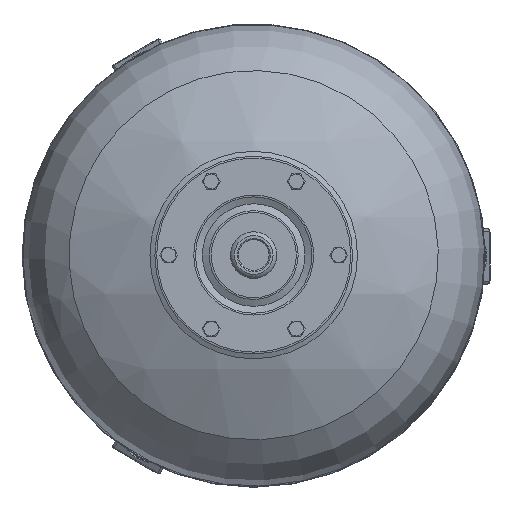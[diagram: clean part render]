
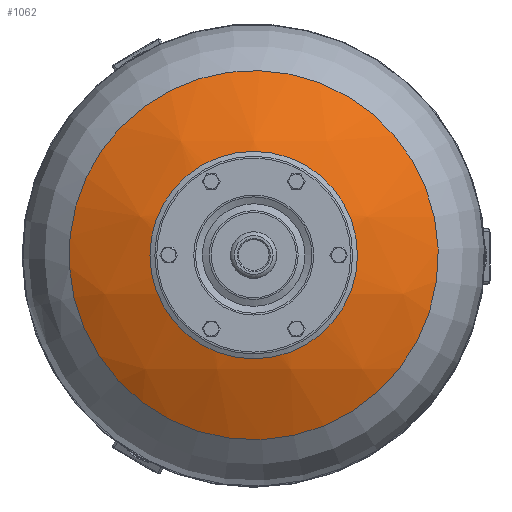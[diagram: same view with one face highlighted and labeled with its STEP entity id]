
A CAD part, top view. The second image highlights one B-rep face of the part: STEP entity #1062.
In plain terms, the highlighted spherical face has radius 468 mm.
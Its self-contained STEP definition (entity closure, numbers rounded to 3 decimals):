
#1062=ADVANCED_FACE('',(#4754,#4756),#4758,.T.);
#4754=FACE_BOUND('',#4755,.T.);
#4755=EDGE_LOOP('',(#8674,#8675));
#4756=FACE_BOUND('',#4757,.T.);
#4757=EDGE_LOOP('',(#8676,#8677));
#4758=SPHERICAL_SURFACE('',#4759,468.);
#4759=AXIS2_PLACEMENT_3D('',#4760,#4761,#4762);
#4760=CARTESIAN_POINT('',(0.,0.,-55.351));
#4761=DIRECTION('',(0.,-1.,0.));
#4762=DIRECTION('',(1.,0.,0.));
#8674=ORIENTED_EDGE('',*,*,#10526,.T.);
#8675=ORIENTED_EDGE('',*,*,#10527,.T.);
#8676=ORIENTED_EDGE('',*,*,#10528,.T.);
#8677=ORIENTED_EDGE('',*,*,#10529,.T.);
#10526=EDGE_CURVE('',#11791,#11792,#11793,.T.);
#10527=EDGE_CURVE('',#11792,#11791,#11794,.T.);
#10528=EDGE_CURVE('',#11795,#11796,#11797,.T.);
#10529=EDGE_CURVE('',#11796,#11795,#11798,.T.);
#11791=VERTEX_POINT('',#15808);
#11792=VERTEX_POINT('',#15809);
#11793=CIRCLE('',#15810,234.);
#11794=CIRCLE('',#15814,234.);
#11795=VERTEX_POINT('',#15818);
#11796=VERTEX_POINT('',#15819);
#11797=TRIMMED_CURVE('',#15820,(PARAMETER_VALUE(0.)),(PARAMETER_VALUE(3.142)),
.T.,.PARAMETER.);
#11798=TRIMMED_CURVE('',#15821,(PARAMETER_VALUE(3.142)),(PARAMETER_VALUE(
6.283)),.T.,.PARAMETER.);
#15808=CARTESIAN_POINT('',(-227.834,-53.364,349.949));
#15809=CARTESIAN_POINT('',(229.016,48.041,349.949));
#15810=AXIS2_PLACEMENT_3D('',#15811,#15812,#15813);
#15811=CARTESIAN_POINT('',(0.,0.,349.949));
#15812=DIRECTION('',(0.,0.,1.));
#15813=DIRECTION('',(-0.974,-0.228,0.));
#15814=AXIS2_PLACEMENT_3D('',#15815,#15816,#15817);
#15815=CARTESIAN_POINT('',(0.,0.,349.949));
#15816=DIRECTION('',(0.,0.,1.));
#15817=DIRECTION('',(0.979,0.205,0.));
#15818=CARTESIAN_POINT('',(-99.755,0.,401.894));
#15819=CARTESIAN_POINT('',(99.755,0.,401.894));
#15820=CIRCLE('',#20568,99.755);
#15821=CIRCLE('',#20572,99.755);
#20568=AXIS2_PLACEMENT_3D('',#20569,#20570,#20571);
#20569=CARTESIAN_POINT('',(0.,0.,401.894));
#20570=DIRECTION('',(0.,0.,-1.));
#20571=DIRECTION('',(-1.,0.,0.));
#20572=AXIS2_PLACEMENT_3D('',#20573,#20574,#20575);
#20573=CARTESIAN_POINT('',(0.,0.,401.894));
#20574=DIRECTION('',(0.,0.,-1.));
#20575=DIRECTION('',(-1.,0.,0.));
